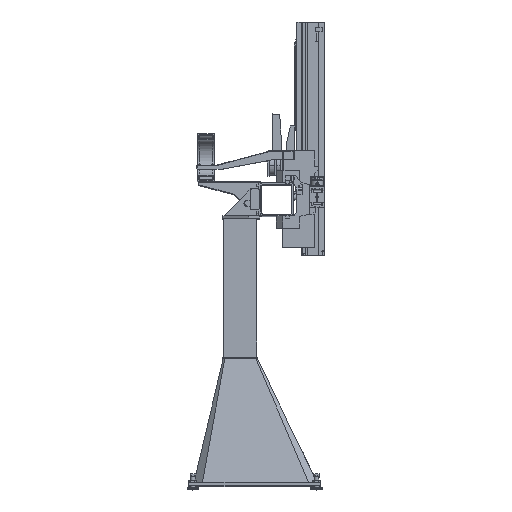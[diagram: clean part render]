
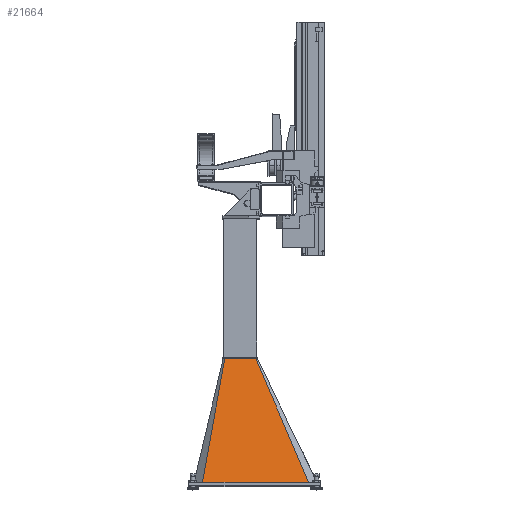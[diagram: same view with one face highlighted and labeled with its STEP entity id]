
A CAD part, top view. The second image highlights one B-rep face of the part: STEP entity #21664.
In plain terms, the highlighted planar face has unit normal (0, 0.196, 0.981) as drawn and (-0.981, 0.196, 0) by its records, which use the part's own axes.
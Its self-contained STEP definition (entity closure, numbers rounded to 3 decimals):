
#1181 = CARTESIAN_POINT ( 'NONE',  ( -207., 1540., -188.5 ) ) ;
#1310 = CARTESIAN_POINT ( 'NONE',  ( -507., 40., -459. ) ) ;
#2039 = ORIENTED_EDGE ( 'NONE', *, *, #5352, .T. ) ;
#4397 = EDGE_CURVE ( 'NONE', #21961, #37359, #29996, .T. ) ;
#5352 = EDGE_CURVE ( 'NONE', #46590, #37359, #77091, .T. ) ;
#6117 = DIRECTION ( 'NONE',  ( -0.181, -0.904, 0.386 ) ) ;
#10614 = DIRECTION ( 'NONE',  ( 0., 0., 1. ) ) ;
#15255 = CARTESIAN_POINT ( 'NONE',  ( -207., 1540., 188.5 ) ) ;
#18851 = CARTESIAN_POINT ( 'NONE',  ( -507., 40., 829. ) ) ;
#19138 = ORIENTED_EDGE ( 'NONE', *, *, #78105, .F. ) ;
#20692 = DIRECTION ( 'NONE',  ( -0.193, -0.966, -0.174 ) ) ;
#21356 = FACE_OUTER_BOUND ( 'NONE', #41791, .T. ) ;
#21664 = ADVANCED_FACE ( 'NONE', ( #21356 ), #40795, .T. ) ;
#21961 = VERTEX_POINT ( 'NONE', #23427 ) ;
#23427 = CARTESIAN_POINT ( 'NONE',  ( -207., 1540., 188.5 ) ) ;
#27935 = VECTOR ( 'NONE', #60661, 1000. ) ;
#28659 = VECTOR ( 'NONE', #20692, 1000. ) ;
#28837 = ORIENTED_EDGE ( 'NONE', *, *, #79464, .T. ) ;
#29740 = CARTESIAN_POINT ( 'NONE',  ( -495.192, 99.038, 0. ) ) ;
#29996 = LINE ( 'NONE', #15255, #73358 ) ;
#31783 = VECTOR ( 'NONE', #10614, 1000. ) ;
#33090 = CARTESIAN_POINT ( 'NONE',  ( -207., 1540., -188.5 ) ) ;
#34607 = DIRECTION ( 'NONE',  ( -0.196, -0.981, 0. ) ) ;
#37359 = VERTEX_POINT ( 'NONE', #18851 ) ;
#40795 = PLANE ( 'NONE',  #61409 ) ;
#41791 = EDGE_LOOP ( 'NONE', ( #28837, #2039, #62310, #19138 ) ) ;
#45018 = LINE ( 'NONE', #33090, #28659 ) ;
#46590 = VERTEX_POINT ( 'NONE', #1310 ) ;
#55111 = CARTESIAN_POINT ( 'NONE',  ( -507., 40., -459. ) ) ;
#58527 = VERTEX_POINT ( 'NONE', #1181 ) ;
#60661 = DIRECTION ( 'NONE',  ( 0., 0., 1. ) ) ;
#61409 = AXIS2_PLACEMENT_3D ( 'NONE', #29740, #77717, #34607 ) ;
#62310 = ORIENTED_EDGE ( 'NONE', *, *, #4397, .F. ) ;
#64497 = LINE ( 'NONE', #76897, #31783 ) ;
#73358 = VECTOR ( 'NONE', #6117, 1000. ) ;
#76897 = CARTESIAN_POINT ( 'NONE',  ( -207., 1540., 188.5 ) ) ;
#77091 = LINE ( 'NONE', #55111, #27935 ) ;
#77717 = DIRECTION ( 'NONE',  ( -0.981, 0.196, 0. ) ) ;
#78105 = EDGE_CURVE ( 'NONE', #58527, #21961, #64497, .T. ) ;
#79464 = EDGE_CURVE ( 'NONE', #58527, #46590, #45018, .T. ) ;
